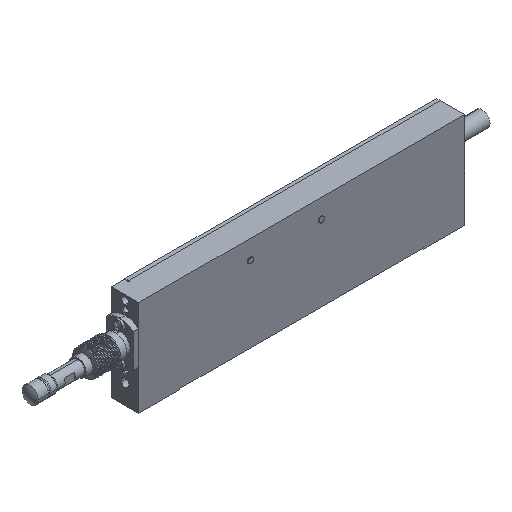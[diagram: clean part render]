
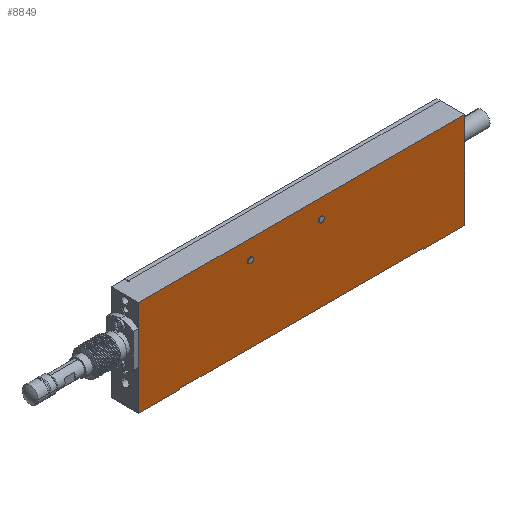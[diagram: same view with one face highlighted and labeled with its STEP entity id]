
A CAD part, isometric view. The second image highlights one B-rep face of the part: STEP entity #8849.
In plain terms, the highlighted planar face has unit normal (0, -1, 0).
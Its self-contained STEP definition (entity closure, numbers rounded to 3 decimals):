
#377 = EDGE_CURVE ( 'NONE', #4494, #13149, #12630, .T. ) ;
#430 = DIRECTION ( 'NONE',  ( 0., -1., 0. ) ) ;
#507 = ORIENTED_EDGE ( 'NONE', *, *, #11970, .F. ) ;
#613 = CIRCLE ( 'NONE', #5437, 0.8 ) ;
#698 = ORIENTED_EDGE ( 'NONE', *, *, #1747, .F. ) ;
#1037 = ORIENTED_EDGE ( 'NONE', *, *, #15010, .F. ) ;
#1277 = ORIENTED_EDGE ( 'NONE', *, *, #14366, .F. ) ;
#1518 = CARTESIAN_POINT ( 'NONE',  ( 59.23, -0.703, -0.133 ) ) ;
#1747 = EDGE_CURVE ( 'NONE', #16227, #5692, #13043, .T. ) ;
#1852 = VECTOR ( 'NONE', #12344, 1000. ) ;
#2013 = EDGE_LOOP ( 'NONE', ( #1037, #12866 ) ) ;
#2191 = DIRECTION ( 'NONE',  ( 0., 0., 1. ) ) ;
#2424 = ORIENTED_EDGE ( 'NONE', *, *, #377, .F. ) ;
#2544 = CARTESIAN_POINT ( 'NONE',  ( 26.73, -0.703, -22.633 ) ) ;
#2581 = CARTESIAN_POINT ( 'NONE',  ( 109.73, -0.703, -22.633 ) ) ;
#2642 = CARTESIAN_POINT ( 'NONE',  ( 59.23, -0.703, -0.133 ) ) ;
#2871 = DIRECTION ( 'NONE',  ( 0., 0., -1. ) ) ;
#3371 = VECTOR ( 'NONE', #9748, 1000. ) ;
#3563 = DIRECTION ( 'NONE',  ( -1., 0., 0. ) ) ;
#3664 = DIRECTION ( 'NONE',  ( 1., 0., 0. ) ) ;
#3668 = VECTOR ( 'NONE', #3563, 1000. ) ;
#3764 = ORIENTED_EDGE ( 'NONE', *, *, #10278, .T. ) ;
#4035 = ORIENTED_EDGE ( 'NONE', *, *, #12933, .F. ) ;
#4157 = DIRECTION ( 'NONE',  ( 0., 0., -1. ) ) ;
#4246 = DIRECTION ( 'NONE',  ( 0., -1., 0. ) ) ;
#4494 = VERTEX_POINT ( 'NONE', #10827 ) ;
#4697 = VERTEX_POINT ( 'NONE', #15223 ) ;
#4724 = VERTEX_POINT ( 'NONE', #2581 ) ;
#4730 = CARTESIAN_POINT ( 'NONE',  ( 26.73, -0.703, -22.633 ) ) ;
#4759 = CARTESIAN_POINT ( 'NONE',  ( 26.73, -0.703, 5.367 ) ) ;
#4837 = CARTESIAN_POINT ( 'NONE',  ( 26.73, -0.703, 5.367 ) ) ;
#4901 = EDGE_CURVE ( 'NONE', #10399, #16211, #613, .T. ) ;
#5144 = EDGE_LOOP ( 'NONE', ( #1277, #698 ) ) ;
#5344 = DIRECTION ( 'NONE',  ( 0., -1., 0. ) ) ;
#5349 = CARTESIAN_POINT ( 'NONE',  ( 80.54, -0.703, -0.584 ) ) ;
#5437 = AXIS2_PLACEMENT_3D ( 'NONE', #5592, #4246, #4157 ) ;
#5466 = CARTESIAN_POINT ( 'NONE',  ( 109.73, -0.703, -22.333 ) ) ;
#5592 = CARTESIAN_POINT ( 'NONE',  ( 79.88, -0.703, -0.133 ) ) ;
#5692 = VERTEX_POINT ( 'NONE', #15766 ) ;
#5759 = CARTESIAN_POINT ( 'NONE',  ( 38.73, -0.703, -22.333 ) ) ;
#5958 = ORIENTED_EDGE ( 'NONE', *, *, #15574, .F. ) ;
#6005 = FACE_OUTER_BOUND ( 'NONE', #9829, .T. ) ;
#6381 = CIRCLE ( 'NONE', #14062, 0.8 ) ;
#6640 = CIRCLE ( 'NONE', #15133, 0.8 ) ;
#6687 = DIRECTION ( 'NONE',  ( -1., 0., 0. ) ) ;
#6908 = VECTOR ( 'NONE', #9277, 1000. ) ;
#7278 = LINE ( 'NONE', #10240, #1852 ) ;
#7279 = LINE ( 'NONE', #8053, #12629 ) ;
#7785 = DIRECTION ( 'NONE',  ( 0., -1., 0. ) ) ;
#7828 = ORIENTED_EDGE ( 'NONE', *, *, #16265, .F. ) ;
#8053 = CARTESIAN_POINT ( 'NONE',  ( 121.73, -0.703, 5.367 ) ) ;
#8117 = CARTESIAN_POINT ( 'NONE',  ( 121.73, -0.703, -22.633 ) ) ;
#8325 = LINE ( 'NONE', #5759, #3371 ) ;
#8452 = CARTESIAN_POINT ( 'NONE',  ( 38.73, -0.703, -22.633 ) ) ;
#8459 = VERTEX_POINT ( 'NONE', #8831 ) ;
#8746 = ORIENTED_EDGE ( 'NONE', *, *, #15591, .F. ) ;
#8790 = LINE ( 'NONE', #4730, #3668 ) ;
#8831 = CARTESIAN_POINT ( 'NONE',  ( 109.73, -0.703, -22.333 ) ) ;
#8849 = ADVANCED_FACE ( 'NONE', ( #16150, #13956, #6005 ), #11317, .T. ) ;
#8865 = LINE ( 'NONE', #5466, #6908 ) ;
#9006 = LINE ( 'NONE', #15478, #16378 ) ;
#9277 = DIRECTION ( 'NONE',  ( -1., 0., 0. ) ) ;
#9536 = CARTESIAN_POINT ( 'NONE',  ( 121.73, -0.703, 5.367 ) ) ;
#9717 = VERTEX_POINT ( 'NONE', #2544 ) ;
#9748 = DIRECTION ( 'NONE',  ( 0., 0., -1. ) ) ;
#9829 = EDGE_LOOP ( 'NONE', ( #4035, #8746, #2424, #5958, #507, #7828, #16166, #3764 ) ) ;
#9837 = DIRECTION ( 'NONE',  ( 0., -1., 0. ) ) ;
#9846 = EDGE_CURVE ( 'NONE', #8459, #4697, #8865, .T. ) ;
#10240 = CARTESIAN_POINT ( 'NONE',  ( 109.73, -0.703, -22.333 ) ) ;
#10278 = EDGE_CURVE ( 'NONE', #8459, #4724, #7278, .T. ) ;
#10367 = DIRECTION ( 'NONE',  ( 0., 0., -1. ) ) ;
#10399 = VERTEX_POINT ( 'NONE', #12067 ) ;
#10567 = CARTESIAN_POINT ( 'NONE',  ( 79.88, -0.703, -0.133 ) ) ;
#10827 = CARTESIAN_POINT ( 'NONE',  ( 26.73, -0.703, 5.367 ) ) ;
#11235 = DIRECTION ( 'NONE',  ( 0., 0., -1. ) ) ;
#11317 = PLANE ( 'NONE',  #11619 ) ;
#11619 = AXIS2_PLACEMENT_3D ( 'NONE', #4759, #9837, #11235 ) ;
#11970 = EDGE_CURVE ( 'NONE', #14435, #9717, #9006, .T. ) ;
#12067 = CARTESIAN_POINT ( 'NONE',  ( 79.219, -0.703, 0.319 ) ) ;
#12344 = DIRECTION ( 'NONE',  ( 0., 0., -1. ) ) ;
#12629 = VECTOR ( 'NONE', #13108, 1000. ) ;
#12630 = LINE ( 'NONE', #4837, #15635 ) ;
#12866 = ORIENTED_EDGE ( 'NONE', *, *, #4901, .F. ) ;
#12933 = EDGE_CURVE ( 'NONE', #13251, #4724, #8790, .T. ) ;
#13043 = CIRCLE ( 'NONE', #13584, 0.8 ) ;
#13108 = DIRECTION ( 'NONE',  ( 0., 0., -1. ) ) ;
#13149 = VERTEX_POINT ( 'NONE', #9536 ) ;
#13251 = VERTEX_POINT ( 'NONE', #8117 ) ;
#13584 = AXIS2_PLACEMENT_3D ( 'NONE', #1518, #430, #2871 ) ;
#13587 = CARTESIAN_POINT ( 'NONE',  ( 26.73, -0.703, 5.367 ) ) ;
#13956 = FACE_BOUND ( 'NONE', #5144, .T. ) ;
#14062 = AXIS2_PLACEMENT_3D ( 'NONE', #2642, #7785, #10367 ) ;
#14295 = DIRECTION ( 'NONE',  ( 0., 0., -1. ) ) ;
#14366 = EDGE_CURVE ( 'NONE', #5692, #16227, #6381, .T. ) ;
#14435 = VERTEX_POINT ( 'NONE', #8452 ) ;
#14630 = CARTESIAN_POINT ( 'NONE',  ( 58.538, -0.703, 0.269 ) ) ;
#14845 = LINE ( 'NONE', #13587, #15816 ) ;
#15010 = EDGE_CURVE ( 'NONE', #16211, #10399, #6640, .T. ) ;
#15133 = AXIS2_PLACEMENT_3D ( 'NONE', #10567, #5344, #14295 ) ;
#15223 = CARTESIAN_POINT ( 'NONE',  ( 38.73, -0.703, -22.333 ) ) ;
#15478 = CARTESIAN_POINT ( 'NONE',  ( 26.73, -0.703, -22.633 ) ) ;
#15574 = EDGE_CURVE ( 'NONE', #9717, #4494, #14845, .T. ) ;
#15591 = EDGE_CURVE ( 'NONE', #13149, #13251, #7279, .T. ) ;
#15635 = VECTOR ( 'NONE', #3664, 1000. ) ;
#15766 = CARTESIAN_POINT ( 'NONE',  ( 59.922, -0.703, -0.534 ) ) ;
#15816 = VECTOR ( 'NONE', #2191, 1000. ) ;
#16150 = FACE_BOUND ( 'NONE', #2013, .T. ) ;
#16166 = ORIENTED_EDGE ( 'NONE', *, *, #9846, .F. ) ;
#16211 = VERTEX_POINT ( 'NONE', #5349 ) ;
#16227 = VERTEX_POINT ( 'NONE', #14630 ) ;
#16265 = EDGE_CURVE ( 'NONE', #4697, #14435, #8325, .T. ) ;
#16378 = VECTOR ( 'NONE', #6687, 1000. ) ;
